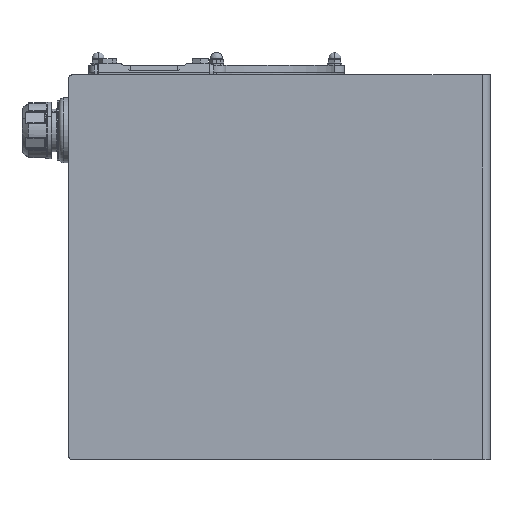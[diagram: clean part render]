
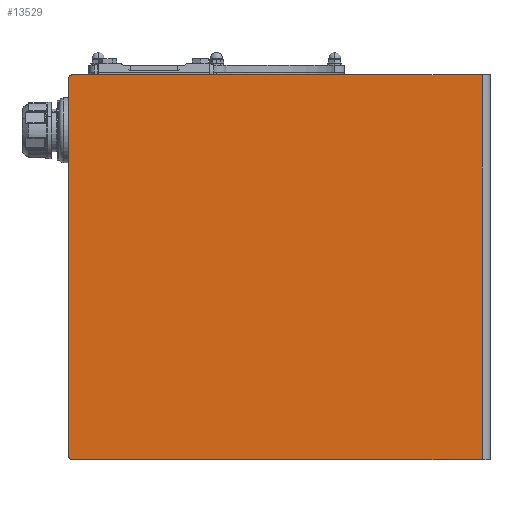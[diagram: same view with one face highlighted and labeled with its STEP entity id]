
A CAD part, left-side view. The second image highlights one B-rep face of the part: STEP entity #13529.
In plain terms, the highlighted planar face has unit normal (-1, 0, 0) as drawn and (0, 0, 1) by its records, which use the part's own axes.
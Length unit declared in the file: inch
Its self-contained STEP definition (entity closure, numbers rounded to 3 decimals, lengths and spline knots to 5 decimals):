
#99 = DIRECTION ( 'NONE',  ( -1., 0., 0. ) ) ;
#441 = DIRECTION ( 'NONE',  ( -1., 0., 0. ) ) ;
#937 = DIRECTION ( 'NONE',  ( 0., -1., 0. ) ) ;
#1051 = VECTOR ( 'NONE', #937, 39.37008 ) ;
#1714 = DIRECTION ( 'NONE',  ( -1., 0., 0. ) ) ;
#1774 = CARTESIAN_POINT ( 'NONE',  ( 10.375, -11.375, 0. ) ) ;
#3942 = VECTOR ( 'NONE', #5020, 39.37008 ) ;
#5020 = DIRECTION ( 'NONE',  ( -1., 0., 0. ) ) ;
#7048 = DIRECTION ( 'NONE',  ( 0., 1., 0. ) ) ;
#7091 = VECTOR ( 'NONE', #9508, 39.37008 ) ;
#8098 = FACE_OUTER_BOUND ( 'NONE', #33287, .T. ) ;
#8216 = CIRCLE ( 'NONE', #26306, 0.25 ) ;
#8251 = EDGE_CURVE ( 'NONE', #19210, #29808, #23502, .T. ) ;
#8697 = EDGE_CURVE ( 'NONE', #9461, #19141, #19430, .T. ) ;
#9461 = VERTEX_POINT ( 'NONE', #27833 ) ;
#9508 = DIRECTION ( 'NONE',  ( 1., 0., 0. ) ) ;
#10067 = CARTESIAN_POINT ( 'NONE',  ( 0., 0., 0. ) ) ;
#11166 = CARTESIAN_POINT ( 'NONE',  ( -10.125, 11.375, 0. ) ) ;
#11889 = CARTESIAN_POINT ( 'NONE',  ( -10.375, -11.375, 0. ) ) ;
#12329 = EDGE_CURVE ( 'NONE', #29808, #9461, #26428, .T. ) ;
#13490 = VECTOR ( 'NONE', #7048, 39.37008 ) ;
#13529 = ADVANCED_FACE ( 'NONE', ( #8098 ), #25797, .F. ) ;
#14790 = CARTESIAN_POINT ( 'NONE',  ( -10.375, -10.9457, 0. ) ) ;
#14808 = CARTESIAN_POINT ( 'NONE',  ( 10.125, 11.125, 0. ) ) ;
#14904 = DIRECTION ( 'NONE',  ( 0., 0., 1. ) ) ;
#15815 = DIRECTION ( 'NONE',  ( 0., 0., -1. ) ) ;
#17117 = LINE ( 'NONE', #31181, #3942 ) ;
#17333 = AXIS2_PLACEMENT_3D ( 'NONE', #27119, #23310, #441 ) ;
#17628 = ORIENTED_EDGE ( 'NONE', *, *, #8251, .T. ) ;
#17846 = EDGE_CURVE ( 'NONE', #19141, #27235, #26637, .T. ) ;
#19141 = VERTEX_POINT ( 'NONE', #29012 ) ;
#19210 = VERTEX_POINT ( 'NONE', #11166 ) ;
#19430 = LINE ( 'NONE', #14790, #7091 ) ;
#19507 = ORIENTED_EDGE ( 'NONE', *, *, #31498, .T. ) ;
#20226 = EDGE_CURVE ( 'NONE', #30540, #19210, #17117, .T. ) ;
#21995 = ORIENTED_EDGE ( 'NONE', *, *, #12329, .T. ) ;
#23310 = DIRECTION ( 'NONE',  ( 0., 0., 1. ) ) ;
#23502 = CIRCLE ( 'NONE', #17333, 0.25 ) ;
#24812 = ORIENTED_EDGE ( 'NONE', *, *, #17846, .T. ) ;
#25112 = CARTESIAN_POINT ( 'NONE',  ( 10.125, 11.375, 0. ) ) ;
#25797 = PLANE ( 'NONE',  #31027 ) ;
#26306 = AXIS2_PLACEMENT_3D ( 'NONE', #14808, #14904, #1714 ) ;
#26428 = LINE ( 'NONE', #11889, #1051 ) ;
#26637 = LINE ( 'NONE', #1774, #13490 ) ;
#27119 = CARTESIAN_POINT ( 'NONE',  ( -10.125, 11.125, 0. ) ) ;
#27235 = VERTEX_POINT ( 'NONE', #33320 ) ;
#27833 = CARTESIAN_POINT ( 'NONE',  ( -10.375, -10.9457, 0. ) ) ;
#28474 = ORIENTED_EDGE ( 'NONE', *, *, #20226, .T. ) ;
#29012 = CARTESIAN_POINT ( 'NONE',  ( 10.375, -10.9457, 0. ) ) ;
#29808 = VERTEX_POINT ( 'NONE', #30893 ) ;
#30540 = VERTEX_POINT ( 'NONE', #25112 ) ;
#30893 = CARTESIAN_POINT ( 'NONE',  ( -10.375, 11.125, 0. ) ) ;
#31027 = AXIS2_PLACEMENT_3D ( 'NONE', #10067, #15815, #99 ) ;
#31181 = CARTESIAN_POINT ( 'NONE',  ( -10.375, 11.375, 0. ) ) ;
#31498 = EDGE_CURVE ( 'NONE', #27235, #30540, #8216, .T. ) ;
#33287 = EDGE_LOOP ( 'NONE', ( #24812, #19507, #28474, #17628, #21995, #33557 ) ) ;
#33320 = CARTESIAN_POINT ( 'NONE',  ( 10.375, 11.125, 0. ) ) ;
#33557 = ORIENTED_EDGE ( 'NONE', *, *, #8697, .T. ) ;
